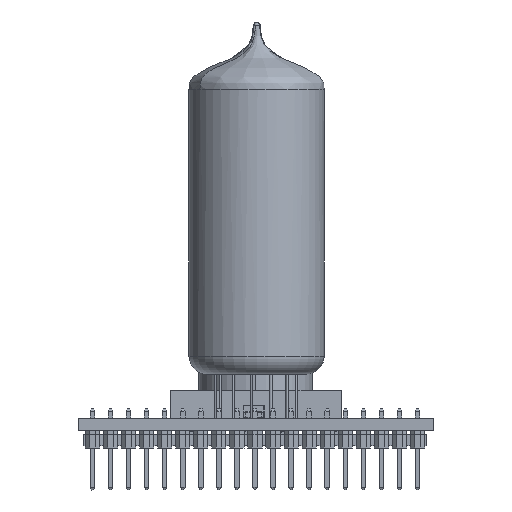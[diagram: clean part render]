
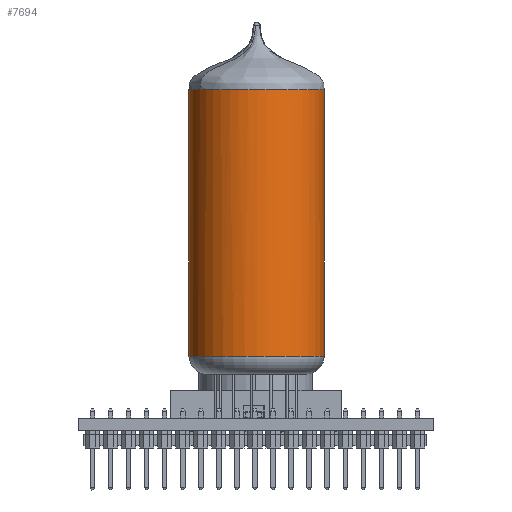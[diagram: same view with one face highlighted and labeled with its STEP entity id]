
A CAD part, left-side view. The second image highlights one B-rep face of the part: STEP entity #7694.
In plain terms, the highlighted cylindrical face has radius 9.5 mm (diameter 19 mm), a partial arc.
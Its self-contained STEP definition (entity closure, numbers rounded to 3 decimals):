
#7425 = EDGE_CURVE('',#7426,#7428,#7430,.T.);
#7426 = VERTEX_POINT('',#7427);
#7427 = CARTESIAN_POINT('',(17.025,34.425,
    46.309));
#7428 = VERTEX_POINT('',#7429);
#7429 = CARTESIAN_POINT('',(11.834,32.881,
    46.309));
#7430 = B_SPLINE_CURVE_WITH_KNOTS('',5,(#7431,#7432,#7433,#7434,#7435,
    #7436),.UNSPECIFIED.,.F.,.F.,(6,6),(0.409,0.5),
  .PIECEWISE_BEZIER_KNOTS.);
#7431 = CARTESIAN_POINT('',(17.025,34.425,
    46.309));
#7432 = CARTESIAN_POINT('',(15.955,34.426,
    46.309));
#7433 = CARTESIAN_POINT('',(14.879,34.277,
    46.309));
#7434 = CARTESIAN_POINT('',(13.819,33.973,
    46.309));
#7435 = CARTESIAN_POINT('',(12.796,33.509,
    46.309));
#7436 = CARTESIAN_POINT('',(11.834,32.881,
    46.309));
#7633 = VERTEX_POINT('',#7634);
#7634 = CARTESIAN_POINT('',(17.025,34.425,
    8.809));
#7642 = VERTEX_POINT('',#7643);
#7643 = CARTESIAN_POINT('',(17.025,15.425,
    8.809));
#7666 = VERTEX_POINT('',#7667);
#7667 = CARTESIAN_POINT('',(17.025,15.425,
    46.309));
#7676 = EDGE_CURVE('',#7666,#7642,#7677,.T.);
#7677 = LINE('',#7678,#7679);
#7678 = CARTESIAN_POINT('',(17.025,15.425,
    46.309));
#7679 = VECTOR('',#7680,1.);
#7680 = DIRECTION('',(0.,0.,-1.));
#7683 = EDGE_CURVE('',#7426,#7633,#7684,.T.);
#7684 = LINE('',#7685,#7686);
#7685 = CARTESIAN_POINT('',(17.025,34.425,
    46.309));
#7686 = VECTOR('',#7687,1.);
#7687 = DIRECTION('',(0.,0.,-1.));
#7694 = ADVANCED_FACE('',(#7695),#7722,.T.);
#7695 = FACE_BOUND('',#7696,.T.);
#7696 = EDGE_LOOP('',(#7697,#7698,#7713,#7714,#7715));
#7697 = ORIENTED_EDGE('',*,*,#7676,.F.);
#7698 = ORIENTED_EDGE('',*,*,#7699,.F.);
#7699 = EDGE_CURVE('',#7428,#7666,#7700,.T.);
#7700 = B_SPLINE_CURVE_WITH_KNOTS('',5,(#7701,#7702,#7703,#7704,#7705,
    #7706,#7707,#7708,#7709,#7710,#7711,#7712),.UNSPECIFIED.,.F.,.F.,(6,
    3,3,6),(0.5,0.75,0.781,0.909),.UNSPECIFIED.);
#7701 = CARTESIAN_POINT('',(11.834,32.881,
    46.309));
#7702 = CARTESIAN_POINT('',(9.199,31.163,
    46.309));
#7703 = CARTESIAN_POINT('',(7.51,28.536,
    46.309));
#7704 = CARTESIAN_POINT('',(6.862,25.454,
    46.309));
#7705 = CARTESIAN_POINT('',(7.41,21.983,
    46.309));
#7706 = CARTESIAN_POINT('',(9.517,19.082,46.309
    ));
#7707 = CARTESIAN_POINT('',(9.755,18.791,
    46.309));
#7708 = CARTESIAN_POINT('',(11.049,17.346,
    46.309));
#7709 = CARTESIAN_POINT('',(12.64,16.297,
    46.309));
#7710 = CARTESIAN_POINT('',(14.05,15.722,
    46.309));
#7711 = CARTESIAN_POINT('',(15.531,15.427,
    46.309));
#7712 = CARTESIAN_POINT('',(17.025,15.425,
    46.309));
#7713 = ORIENTED_EDGE('',*,*,#7425,.F.);
#7714 = ORIENTED_EDGE('',*,*,#7683,.T.);
#7715 = ORIENTED_EDGE('',*,*,#7716,.T.);
#7716 = EDGE_CURVE('',#7633,#7642,#7717,.T.);
#7717 = CIRCLE('',#7718,9.5);
#7718 = AXIS2_PLACEMENT_3D('',#7719,#7720,#7721);
#7719 = CARTESIAN_POINT('',(17.025,24.925,
    8.809));
#7720 = DIRECTION('',(0.,0.,1.));
#7721 = DIRECTION('',(0.,-1.,0.));
#7722 = CYLINDRICAL_SURFACE('',#7723,9.5);
#7723 = AXIS2_PLACEMENT_3D('',#7724,#7725,#7726);
#7724 = CARTESIAN_POINT('',(17.025,24.925,
    46.309));
#7725 = DIRECTION('',(0.,0.,-1.));
#7726 = DIRECTION('',(0.,1.,0.));
